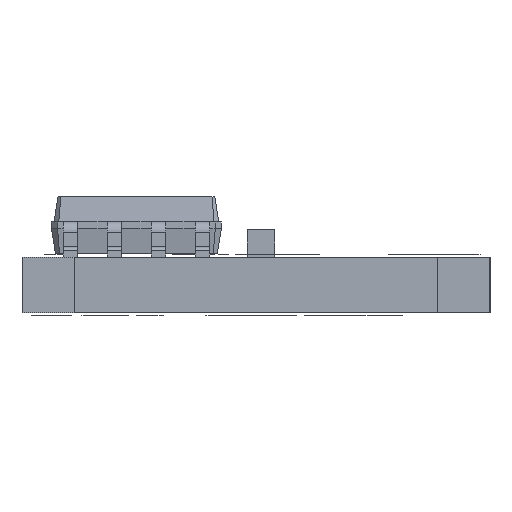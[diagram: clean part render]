
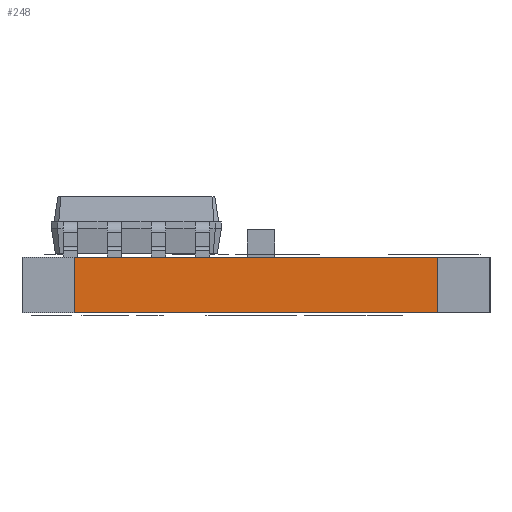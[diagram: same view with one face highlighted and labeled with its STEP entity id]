
A CAD part, left-side view. The second image highlights one B-rep face of the part: STEP entity #248.
In plain terms, the highlighted planar face has unit normal (-1, 0, 0).
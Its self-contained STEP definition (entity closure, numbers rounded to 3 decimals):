
#192 = VERTEX_POINT('',#193);
#193 = CARTESIAN_POINT('',(30.,-108.,-1.6));
#199 = EDGE_CURVE('',#200,#192,#202,.T.);
#200 = VERTEX_POINT('',#201);
#201 = CARTESIAN_POINT('',(30.,-108.,0.));
#202 = LINE('',#203,#204);
#203 = CARTESIAN_POINT('',(30.,-108.,0.));
#204 = VECTOR('',#205,1.);
#205 = DIRECTION('',(0.,0.,-1.));
#248 = ADVANCED_FACE('',(#249),#274,.F.);
#249 = FACE_BOUND('',#250,.F.);
#250 = EDGE_LOOP('',(#251,#261,#267,#268));
#251 = ORIENTED_EDGE('',*,*,#252,.T.);
#252 = EDGE_CURVE('',#253,#255,#257,.T.);
#253 = VERTEX_POINT('',#254);
#254 = CARTESIAN_POINT('',(30.,-118.5,0.));
#255 = VERTEX_POINT('',#256);
#256 = CARTESIAN_POINT('',(30.,-118.5,-1.6));
#257 = LINE('',#258,#259);
#258 = CARTESIAN_POINT('',(30.,-118.5,0.));
#259 = VECTOR('',#260,1.);
#260 = DIRECTION('',(0.,0.,-1.));
#261 = ORIENTED_EDGE('',*,*,#262,.T.);
#262 = EDGE_CURVE('',#255,#192,#263,.T.);
#263 = LINE('',#264,#265);
#264 = CARTESIAN_POINT('',(30.,-118.5,-1.6));
#265 = VECTOR('',#266,1.);
#266 = DIRECTION('',(0.,1.,0.));
#267 = ORIENTED_EDGE('',*,*,#199,.F.);
#268 = ORIENTED_EDGE('',*,*,#269,.F.);
#269 = EDGE_CURVE('',#253,#200,#270,.T.);
#270 = LINE('',#271,#272);
#271 = CARTESIAN_POINT('',(30.,-118.5,0.));
#272 = VECTOR('',#273,1.);
#273 = DIRECTION('',(0.,1.,0.));
#274 = PLANE('',#275);
#275 = AXIS2_PLACEMENT_3D('',#276,#277,#278);
#276 = CARTESIAN_POINT('',(30.,-118.5,0.));
#277 = DIRECTION('',(1.,-0.,0.));
#278 = DIRECTION('',(0.,1.,0.));
